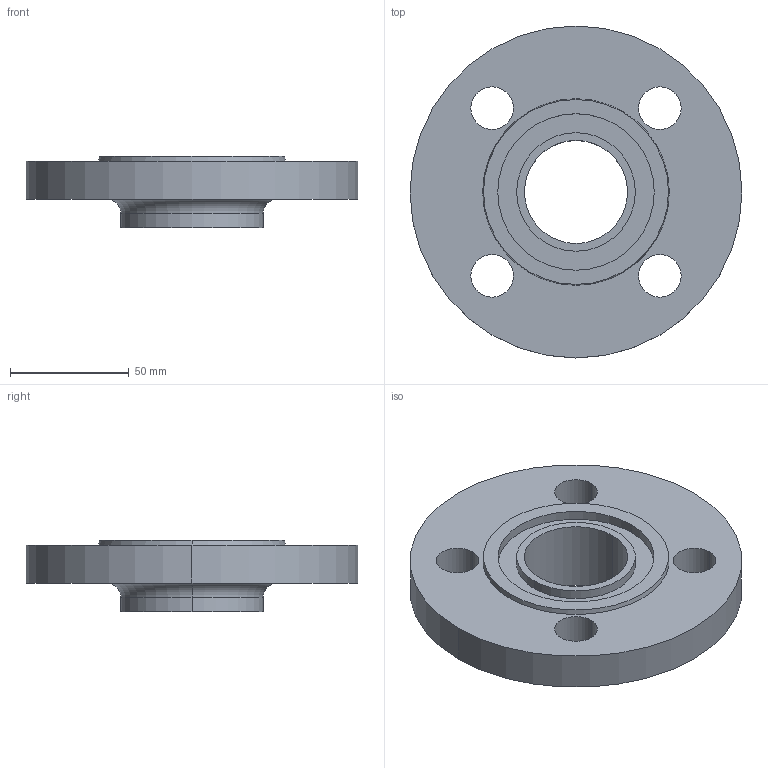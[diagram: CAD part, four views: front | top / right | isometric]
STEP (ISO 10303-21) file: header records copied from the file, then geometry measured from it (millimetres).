
FILE_DESCRIPTION (( 'STEP AP214' ), '1' );
FILE_NAME ('PN40 DN32 Type 12 - Type D Face.STEP', '2018-12-29T23:57:14', ( '' ), ( '' ), 'SwSTEP 2.0', 'SolidWorks 2019', '' );
FILE_SCHEMA (( 'AUTOMOTIVE_DESIGN' ));
Length unit declared in the file: millimetre
Products named in the file (1): PN40 DN32 Type 12 - Type D Face
Bounding box: 140 x 140 x 30 mm (x, y, z)
Volume: 224692.9 mm3; surface area: 44198.9 mm2
Topology: 1 solids, 1 shells, 28 faces, 64 edges, 42 vertices
Faces by surface type: cylinder 18, plane 6, torus 2, cone 2
Entity records: 870 total; most frequent: DIRECTION 166, CARTESIAN_POINT 135, ORIENTED_EDGE 128, AXIS2_PLACEMENT_3D 73, EDGE_CURVE 64, CIRCLE 44, VERTEX_POINT 42, EDGE_LOOP 42
